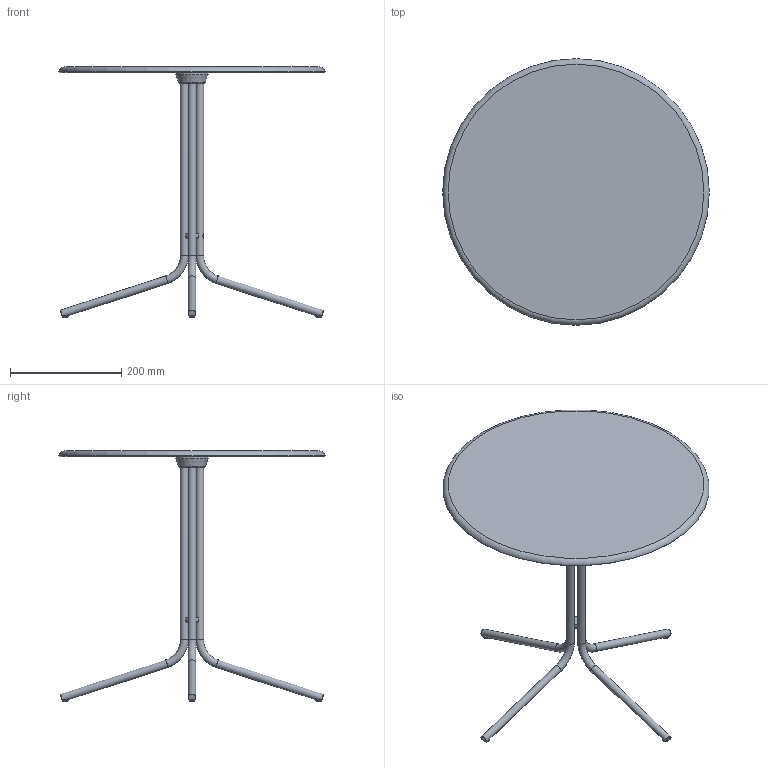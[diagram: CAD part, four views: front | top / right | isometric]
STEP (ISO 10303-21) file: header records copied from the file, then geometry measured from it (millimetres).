
FILE_DESCRIPTION((''),'2;1');
FILE_NAME('C:\AutodeskVault\AreaLavoro\Progetti\SoVeT Italia\2. Tavolini_Coffee tables\Genius\Genius Round\Web file\Genius Round Web\P4704.stp','2012-06-19T12:03:18',('Gianluca'),('So.Ve.T. s.r.l.'),'Autodesk Inventor 2013','Autodesk Inventor 2013','IL PROGETTO E'' DI ESCLUSIVA PROPRIETA'' DELLA SO.VE.T. srl. E'' VIETATA OGNI RIPRODUZIONE TOTALE O PARZIALE E QUALSIASI UTILIZZO NON AUTORIZZATO. ');
FILE_SCHEMA(('AUTOMOTIVE_DESIGN { 1 0 10303 214 1 1 1 1 }'));
Length unit declared in the file: millimetre
Products named in the file (1): P4704 LCTR Contorno semplificato
Bounding box: 480 x 480 x 450 mm (x, y, z)
Volume: 2172876.8 mm3; surface area: 472553.4 mm2
Topology: 1 solids, 1 shells, 73 faces, 203 edges, 128 vertices
Faces by surface type: plane 22, cylinder 19, cone 15, torus 13, sphere 4
Full cylindrical faces by diameter (mm): 10 x4, 14 x8, 58 x1
Entity records: 2156 total; most frequent: CARTESIAN_POINT 503, DIRECTION 334, ORIENTED_EDGE 278, AXIS2_PLACEMENT_3D 159, EDGE_CURVE 139, EDGE_LOOP 110, VERTEX_POINT 99, STYLED_ITEM 74
